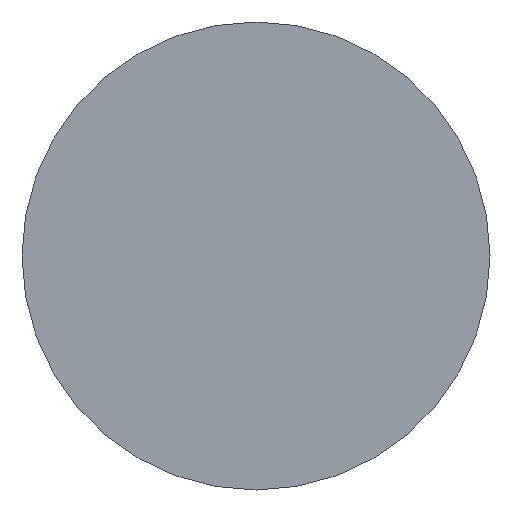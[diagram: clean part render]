
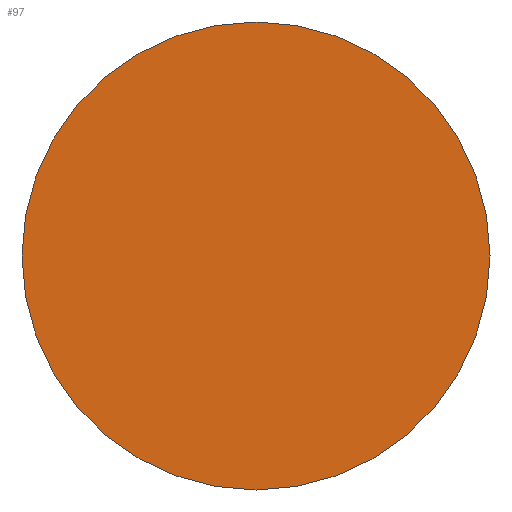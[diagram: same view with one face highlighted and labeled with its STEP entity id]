
A CAD part, left-side view. The second image highlights one B-rep face of the part: STEP entity #97.
In plain terms, the highlighted planar face has unit normal (-1, 0, 0).
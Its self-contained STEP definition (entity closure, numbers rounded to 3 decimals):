
#11 = DIRECTION ( 'NONE',  ( 0., 1., 0. ) ) ;
#13 = DIRECTION ( 'NONE',  ( -1., 0., 0. ) ) ;
#22 = DIRECTION ( 'NONE',  ( 0., -1., 0. ) ) ;
#38 = CIRCLE ( 'NONE', #96, 2.5 ) ;
#43 = CIRCLE ( 'NONE', #189, 2.5 ) ;
#48 = EDGE_CURVE ( 'NONE', #164, #222, #43, .T. ) ;
#56 = PLANE ( 'NONE',  #144 ) ;
#59 = CARTESIAN_POINT ( 'NONE',  ( 0., -2.5, 0. ) ) ;
#91 = CARTESIAN_POINT ( 'NONE',  ( 0., 2.5, 0. ) ) ;
#96 = AXIS2_PLACEMENT_3D ( 'NONE', #215, #258, #11 ) ;
#97 = ADVANCED_FACE ( 'NONE', ( #237 ), #56, .T. ) ;
#123 = CARTESIAN_POINT ( 'NONE',  ( 0., 0., 0. ) ) ;
#144 = AXIS2_PLACEMENT_3D ( 'NONE', #123, #13, #22 ) ;
#164 = VERTEX_POINT ( 'NONE', #59 ) ;
#167 = CARTESIAN_POINT ( 'NONE',  ( 0., 0., 0. ) ) ;
#184 = ORIENTED_EDGE ( 'NONE', *, *, #212, .F. ) ;
#189 = AXIS2_PLACEMENT_3D ( 'NONE', #167, #195, #213 ) ;
#195 = DIRECTION ( 'NONE',  ( 1., 0., 0. ) ) ;
#212 = EDGE_CURVE ( 'NONE', #222, #164, #38, .T. ) ;
#213 = DIRECTION ( 'NONE',  ( 0., 1., 0. ) ) ;
#215 = CARTESIAN_POINT ( 'NONE',  ( 0., 0., 0. ) ) ;
#222 = VERTEX_POINT ( 'NONE', #91 ) ;
#229 = EDGE_LOOP ( 'NONE', ( #184, #272 ) ) ;
#237 = FACE_OUTER_BOUND ( 'NONE', #229, .T. ) ;
#258 = DIRECTION ( 'NONE',  ( 1., 0., 0. ) ) ;
#272 = ORIENTED_EDGE ( 'NONE', *, *, #48, .F. ) ;
